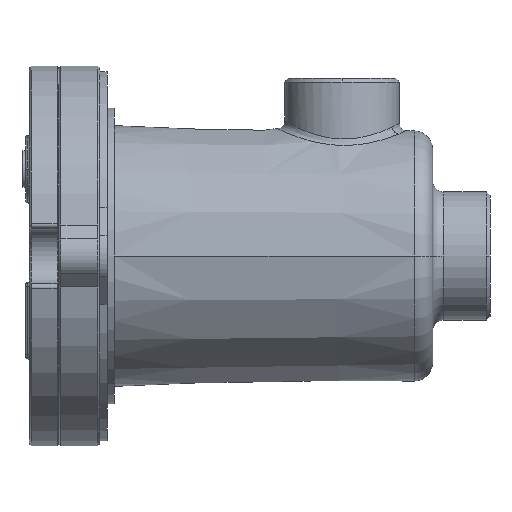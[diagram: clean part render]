
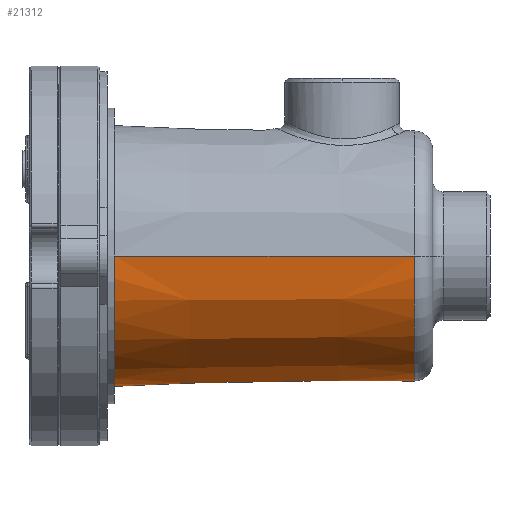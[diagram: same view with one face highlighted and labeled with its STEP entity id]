
A CAD part, left-side view. The second image highlights one B-rep face of the part: STEP entity #21312.
In plain terms, the highlighted conical face has half-angle 1.004 degrees and reference radius 33.73 mm.
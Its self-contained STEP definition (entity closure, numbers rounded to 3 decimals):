
#20343 = CONICAL_SURFACE('',#20344,33.73,0.018);
#20344 = AXIS2_PLACEMENT_3D('',#20345,#20346,#20347);
#20345 = CARTESIAN_POINT('',(0.,15.5,0.));
#20346 = DIRECTION('',(0.,1.,0.));
#20347 = DIRECTION('',(-1.,0.,-0.));
#21121 = VERTEX_POINT('',#21122);
#21122 = CARTESIAN_POINT('',(-33.816,20.412,0.));
#21123 = VERTEX_POINT('',#21124);
#21124 = CARTESIAN_POINT('',(33.816,20.412,0.));
#21151 = EDGE_CURVE('',#21123,#21152,#21154,.T.);
#21152 = VERTEX_POINT('',#21153);
#21153 = CARTESIAN_POINT('',(35.238,101.5,0.));
#21154 = SURFACE_CURVE('',#21155,(#21159,#21166),.PCURVE_S1.);
#21155 = LINE('',#21156,#21157);
#21156 = CARTESIAN_POINT('',(33.73,15.5,0.));
#21157 = VECTOR('',#21158,1.);
#21158 = DIRECTION('',(0.018,1.,0.));
#21159 = PCURVE('',#20343,#21160);
#21160 = DEFINITIONAL_REPRESENTATION('',(#21161),#21165);
#21161 = LINE('',#21162,#21163);
#21162 = CARTESIAN_POINT('',(3.142,0.));
#21163 = VECTOR('',#21164,1.);
#21164 = DIRECTION('',(0.,1.));
#21165 = ( GEOMETRIC_REPRESENTATION_CONTEXT(2) 
PARAMETRIC_REPRESENTATION_CONTEXT() REPRESENTATION_CONTEXT('2D SPACE',''
  ) );
#21166 = PCURVE('',#21167,#21172);
#21167 = CONICAL_SURFACE('',#21168,33.73,0.018);
#21168 = AXIS2_PLACEMENT_3D('',#21169,#21170,#21171);
#21169 = CARTESIAN_POINT('',(0.,15.5,0.));
#21170 = DIRECTION('',(0.,1.,0.));
#21171 = DIRECTION('',(-1.,0.,-0.));
#21172 = DEFINITIONAL_REPRESENTATION('',(#21173),#21177);
#21173 = LINE('',#21174,#21175);
#21174 = CARTESIAN_POINT('',(3.142,0.));
#21175 = VECTOR('',#21176,1.);
#21176 = DIRECTION('',(0.,1.));
#21177 = ( GEOMETRIC_REPRESENTATION_CONTEXT(2) 
PARAMETRIC_REPRESENTATION_CONTEXT() REPRESENTATION_CONTEXT('2D SPACE',''
  ) );
#21180 = VERTEX_POINT('',#21181);
#21181 = CARTESIAN_POINT('',(-35.238,101.5,0.));
#21196 = PLANE('',#21197);
#21197 = AXIS2_PLACEMENT_3D('',#21198,#21199,#21200);
#21198 = CARTESIAN_POINT('',(35.238,101.5,0.));
#21199 = DIRECTION('',(0.,-1.,0.));
#21200 = DIRECTION('',(1.,0.,0.));
#21208 = EDGE_CURVE('',#21121,#21180,#21209,.T.);
#21209 = SURFACE_CURVE('',#21210,(#21214,#21221),.PCURVE_S1.);
#21210 = LINE('',#21211,#21212);
#21211 = CARTESIAN_POINT('',(-33.73,15.5,0.));
#21212 = VECTOR('',#21213,1.);
#21213 = DIRECTION('',(-0.018,1.,0.));
#21214 = PCURVE('',#20343,#21215);
#21215 = DEFINITIONAL_REPRESENTATION('',(#21216),#21220);
#21216 = LINE('',#21217,#21218);
#21217 = CARTESIAN_POINT('',(0.,0.));
#21218 = VECTOR('',#21219,1.);
#21219 = DIRECTION('',(0.,1.));
#21220 = ( GEOMETRIC_REPRESENTATION_CONTEXT(2) 
PARAMETRIC_REPRESENTATION_CONTEXT() REPRESENTATION_CONTEXT('2D SPACE',''
  ) );
#21221 = PCURVE('',#21167,#21222);
#21222 = DEFINITIONAL_REPRESENTATION('',(#21223),#21227);
#21223 = LINE('',#21224,#21225);
#21224 = CARTESIAN_POINT('',(6.283,0.));
#21225 = VECTOR('',#21226,1.);
#21226 = DIRECTION('',(0.,1.));
#21227 = ( GEOMETRIC_REPRESENTATION_CONTEXT(2) 
PARAMETRIC_REPRESENTATION_CONTEXT() REPRESENTATION_CONTEXT('2D SPACE',''
  ) );
#21250 = TOROIDAL_SURFACE('',#21251,28.817,5.);
#21251 = AXIS2_PLACEMENT_3D('',#21252,#21253,#21254);
#21252 = CARTESIAN_POINT('',(0.,20.5,0.));
#21253 = DIRECTION('',(0.,-1.,0.));
#21254 = DIRECTION('',(1.,0.,0.));
#21312 = ADVANCED_FACE('',(#21313),#21167,.T.);
#21313 = FACE_BOUND('',#21314,.T.);
#21314 = EDGE_LOOP('',(#21315,#21316,#21338,#21339));
#21315 = ORIENTED_EDGE('',*,*,#21151,.F.);
#21316 = ORIENTED_EDGE('',*,*,#21317,.T.);
#21317 = EDGE_CURVE('',#21123,#21121,#21318,.T.);
#21318 = SURFACE_CURVE('',#21319,(#21324,#21331),.PCURVE_S1.);
#21319 = CIRCLE('',#21320,33.816);
#21320 = AXIS2_PLACEMENT_3D('',#21321,#21322,#21323);
#21321 = CARTESIAN_POINT('',(0.,20.412,0.));
#21322 = DIRECTION('',(0.,1.,0.));
#21323 = DIRECTION('',(1.,0.,0.));
#21324 = PCURVE('',#21167,#21325);
#21325 = DEFINITIONAL_REPRESENTATION('',(#21326),#21330);
#21326 = LINE('',#21327,#21328);
#21327 = CARTESIAN_POINT('',(3.142,4.912));
#21328 = VECTOR('',#21329,1.);
#21329 = DIRECTION('',(1.,0.));
#21330 = ( GEOMETRIC_REPRESENTATION_CONTEXT(2) 
PARAMETRIC_REPRESENTATION_CONTEXT() REPRESENTATION_CONTEXT('2D SPACE',''
  ) );
#21331 = PCURVE('',#21250,#21332);
#21332 = DEFINITIONAL_REPRESENTATION('',(#21333),#21337);
#21333 = LINE('',#21334,#21335);
#21334 = CARTESIAN_POINT('',(6.283,0.018));
#21335 = VECTOR('',#21336,1.);
#21336 = DIRECTION('',(-1.,0.));
#21337 = ( GEOMETRIC_REPRESENTATION_CONTEXT(2) 
PARAMETRIC_REPRESENTATION_CONTEXT() REPRESENTATION_CONTEXT('2D SPACE',''
  ) );
#21338 = ORIENTED_EDGE('',*,*,#21208,.T.);
#21339 = ORIENTED_EDGE('',*,*,#21340,.T.);
#21340 = EDGE_CURVE('',#21180,#21152,#21341,.T.);
#21341 = SURFACE_CURVE('',#21342,(#21347,#21354),.PCURVE_S1.);
#21342 = CIRCLE('',#21343,35.238);
#21343 = AXIS2_PLACEMENT_3D('',#21344,#21345,#21346);
#21344 = CARTESIAN_POINT('',(0.,101.5,0.));
#21345 = DIRECTION('',(0.,-1.,0.));
#21346 = DIRECTION('',(1.,0.,0.));
#21347 = PCURVE('',#21167,#21348);
#21348 = DEFINITIONAL_REPRESENTATION('',(#21349),#21353);
#21349 = LINE('',#21350,#21351);
#21350 = CARTESIAN_POINT('',(9.425,86.));
#21351 = VECTOR('',#21352,1.);
#21352 = DIRECTION('',(-1.,0.));
#21353 = ( GEOMETRIC_REPRESENTATION_CONTEXT(2) 
PARAMETRIC_REPRESENTATION_CONTEXT() REPRESENTATION_CONTEXT('2D SPACE',''
  ) );
#21354 = PCURVE('',#21196,#21355);
#21355 = DEFINITIONAL_REPRESENTATION('',(#21356),#21360);
#21356 = CIRCLE('',#21357,35.238);
#21357 = AXIS2_PLACEMENT_2D('',#21358,#21359);
#21358 = CARTESIAN_POINT('',(-35.238,0.));
#21359 = DIRECTION('',(1.,0.));
#21360 = ( GEOMETRIC_REPRESENTATION_CONTEXT(2) 
PARAMETRIC_REPRESENTATION_CONTEXT() REPRESENTATION_CONTEXT('2D SPACE',''
  ) );
